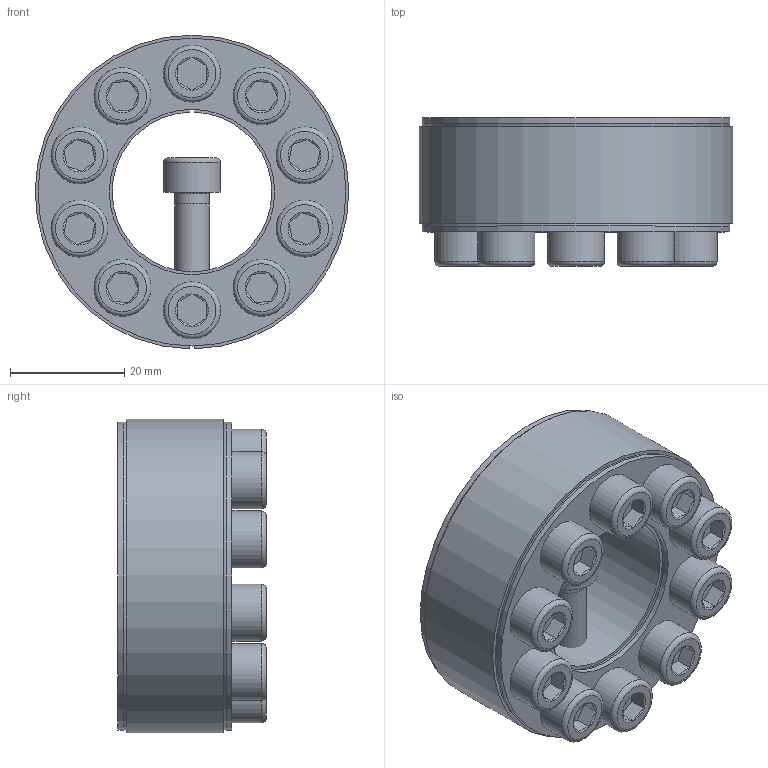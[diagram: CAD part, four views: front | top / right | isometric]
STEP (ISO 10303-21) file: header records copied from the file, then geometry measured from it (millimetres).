
FILE_DESCRIPTION( ( 'Unknown' ), '1' );
FILE_NAME( 'C:/Dokumente und Einstellungen/Sven/Desktop/homepage/cad - homepage/KBS40/KBS 40 - 28 x 55.stp', 'Unknown', ( 'Unknown' ), ( 'Unknown' ), 'XStep 1.0', 'Unknown', ' ' );
FILE_SCHEMA( ( 'automotive_design' ) );
Length unit declared in the file: millimetre
Products named in the file (12): Assem1; KBS 40 28x55; ISO 4762 M6x18; ISO 4762 M6x18-oa0; ISO 4762 M6x18-oa1; ISO 4762 M6x18-oa2; ISO 4762 M6x18-oa3; ISO 4762 M6x18-oa4; ISO 4762 M6x18-oa5; ISO 4762 M6x18-oa6; ISO 4762 M6x18-oa7; ISO 4762 M6x18-oa8
Bounding box: 55 x 26 x 55 mm (x, y, z)
Volume: 76368.5 mm3; surface area: 38852.6 mm2
Topology: 22 solids, 22 shells, 580 faces, 1080 edges, 624 vertices
Faces by surface type: plane 280, cone 148, cylinder 112, torus 40
Full cylindrical faces by diameter (mm): 5 x20, 6 x60, 10 x20, 29 x4, 54 x4
Entity records: 7333 total; most frequent: CARTESIAN_POINT 1482, DIRECTION 1184, ORIENTED_EDGE 860, AXIS2_PLACEMENT_3D 512, EDGE_LOOP 440, EDGE_CURVE 430, FACE_OUTER_BOUND 364, ADVANCED_FACE 290
